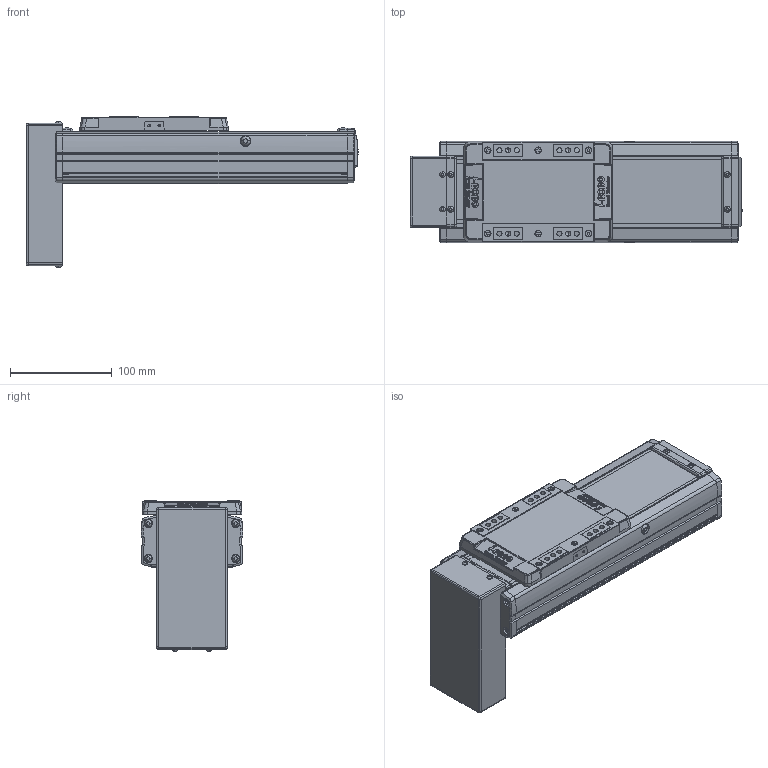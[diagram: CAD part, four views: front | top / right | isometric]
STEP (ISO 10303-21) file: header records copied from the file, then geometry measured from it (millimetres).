
FILE_DESCRIPTION(('STEP AP214'),'1');
FILE_NAME('Z:/Web/3D/SAN100/SAN100 양산용 (STEP)/SAN100ㅁㅁ-100PB.stp','2013-04-24T06:45:09',(' '),(' '),'Spatial InterOp 3D',' ',' ');
FILE_SCHEMA(('automotive_design'));
Length unit declared in the file: millimetre
Products named in the file (35): BTCV-SAN100; M3.0 x 6.0; 스크루 : Round - M4.0 x 10.0; FRCV-SAN100; SUS COVER; SFX-SAN100; RRCV-SAN100; 스크루 : Round - M3.0 x 6.0; FRBL-SAN100; SLBL-SAN100; SLCV-SAN100; 스크루 : Countersunk - M3.0 x 6.0; BASE; 스크루 : Round - M5.0 x 6.0
Bounding box: 326.5 x 100 x 148.36 mm (x, y, z)
Volume: 1273301.9 mm3; surface area: 303544.9 mm2
Topology: 35 solids, 36 shells, 1924 faces, 4992 edges, 3217 vertices
Faces by surface type: plane 981, cylinder 683, cone 170, sphere 48, torus 30, bspline 12
Entity records: 75408 total; most frequent: CARTESIAN_POINT 11046, DIRECTION 10589, ORIENTED_EDGE 9844, EDGE_CURVE 4922, AXIS2_PLACEMENT_3D 3789, VERTEX_POINT 3217, LINE 3011, VECTOR 3011
